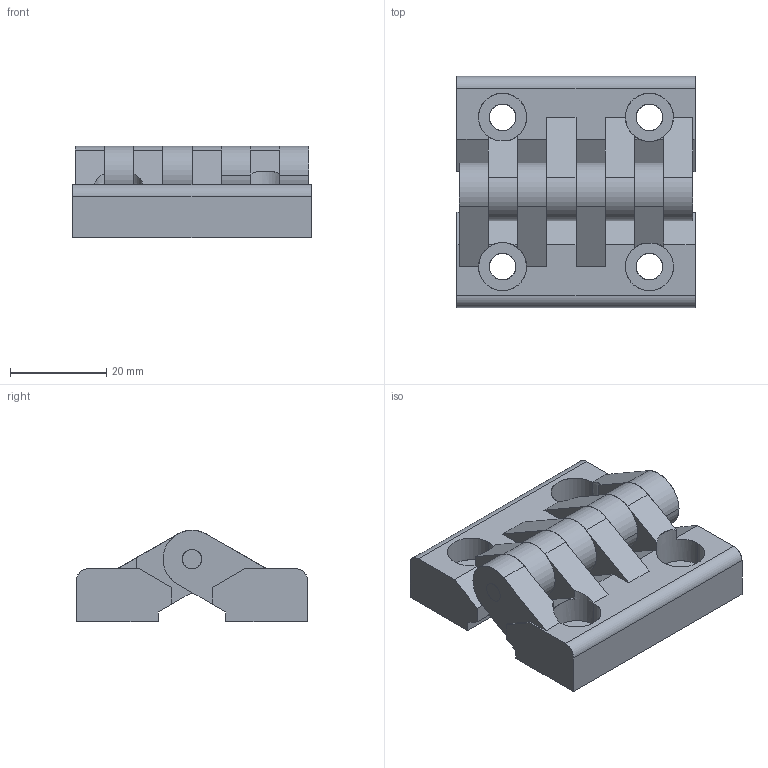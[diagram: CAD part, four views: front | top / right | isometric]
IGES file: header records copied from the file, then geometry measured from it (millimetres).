
Start section: SolidWorks IGES file using analytic representation for surfaces
Global section: file name: X:\11_SW2020-Inv2020\00_全2021-11新製品まで\e\EFHX5050CH\efhx5050ch.IGS; native system: SolidWorks 2020; preprocessor: SolidWorks 2020; author: ImaoCorp; date: 211025.113617; units: millimetre
Bounding box: 49.5 x 48 x 19 mm (x, y, z)
Surface area: 12192.7 mm2 (no closed solid volume)
Topology: 0 solids, 0 shells, 118 faces, 2020 edges, 2020 vertices
Faces by surface type: bspline 70, revolution 48
